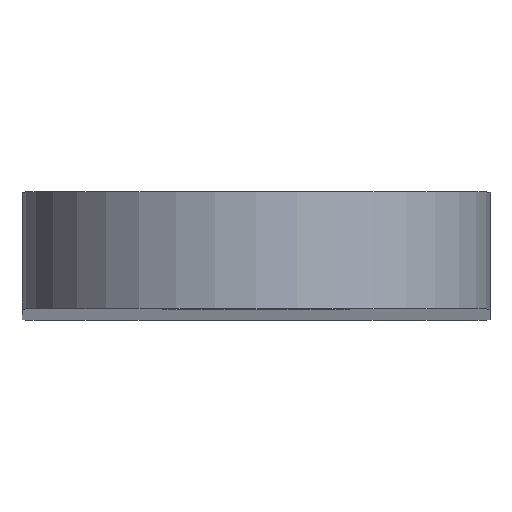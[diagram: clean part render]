
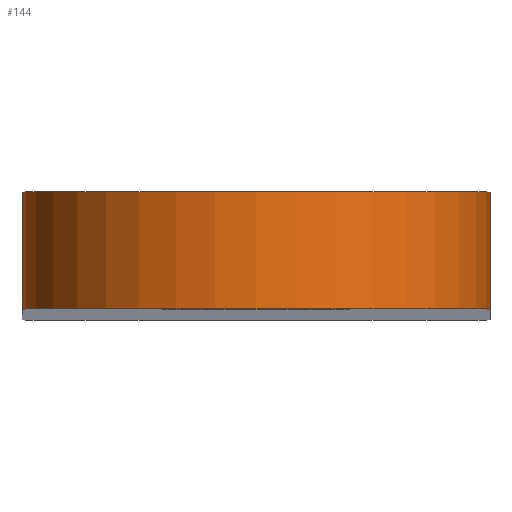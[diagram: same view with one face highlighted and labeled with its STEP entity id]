
A CAD part, top view. The second image highlights one B-rep face of the part: STEP entity #144.
In plain terms, the highlighted cylindrical face has radius 3 mm (diameter 6 mm), a partial arc.
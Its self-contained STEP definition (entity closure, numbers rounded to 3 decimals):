
#26=FACE_OUTER_BOUND('',#34,.T.);
#34=EDGE_LOOP('',(#113,#114,#115,#116));
#48=LINE('',#244,#58);
#49=LINE('',#250,#59);
#58=VECTOR('',#200,10.);
#59=VECTOR('',#207,10.);
#67=CIRCLE('',#171,3.);
#68=CIRCLE('',#172,3.);
#75=VERTEX_POINT('',#237);
#78=VERTEX_POINT('',#242);
#79=VERTEX_POINT('',#246);
#80=VERTEX_POINT('',#248);
#92=EDGE_CURVE('',#75,#78,#48,.T.);
#93=EDGE_CURVE('',#79,#75,#67,.T.);
#94=EDGE_CURVE('',#80,#78,#68,.T.);
#95=EDGE_CURVE('',#79,#80,#49,.T.);
#113=ORIENTED_EDGE('',*,*,#93,.T.);
#114=ORIENTED_EDGE('',*,*,#92,.T.);
#115=ORIENTED_EDGE('',*,*,#94,.F.);
#116=ORIENTED_EDGE('',*,*,#95,.F.);
#139=CYLINDRICAL_SURFACE('',#170,3.);
#144=ADVANCED_FACE('',(#26),#139,.T.);
#170=AXIS2_PLACEMENT_3D('',#245,#201,#202);
#171=AXIS2_PLACEMENT_3D('',#247,#203,#204);
#172=AXIS2_PLACEMENT_3D('',#249,#205,#206);
#200=DIRECTION('',(0.,1.,0.));
#201=DIRECTION('center_axis',(0.,1.,0.));
#202=DIRECTION('ref_axis',(-1.,0.,0.));
#203=DIRECTION('center_axis',(0.,1.,0.));
#204=DIRECTION('ref_axis',(-1.,0.,0.));
#205=DIRECTION('center_axis',(0.,1.,0.));
#206=DIRECTION('ref_axis',(-1.,0.,0.));
#207=DIRECTION('',(0.,1.,0.));
#237=CARTESIAN_POINT('',(3.,0.,40.));
#242=CARTESIAN_POINT('',(3.,1.5,40.));
#244=CARTESIAN_POINT('',(3.,0.,40.));
#245=CARTESIAN_POINT('Origin',(0.,0.,40.));
#246=CARTESIAN_POINT('',(-3.,0.,40.));
#247=CARTESIAN_POINT('Origin',(0.,0.,40.));
#248=CARTESIAN_POINT('',(-3.,1.5,40.));
#249=CARTESIAN_POINT('Origin',(0.,1.5,40.));
#250=CARTESIAN_POINT('',(-3.,0.,40.));
